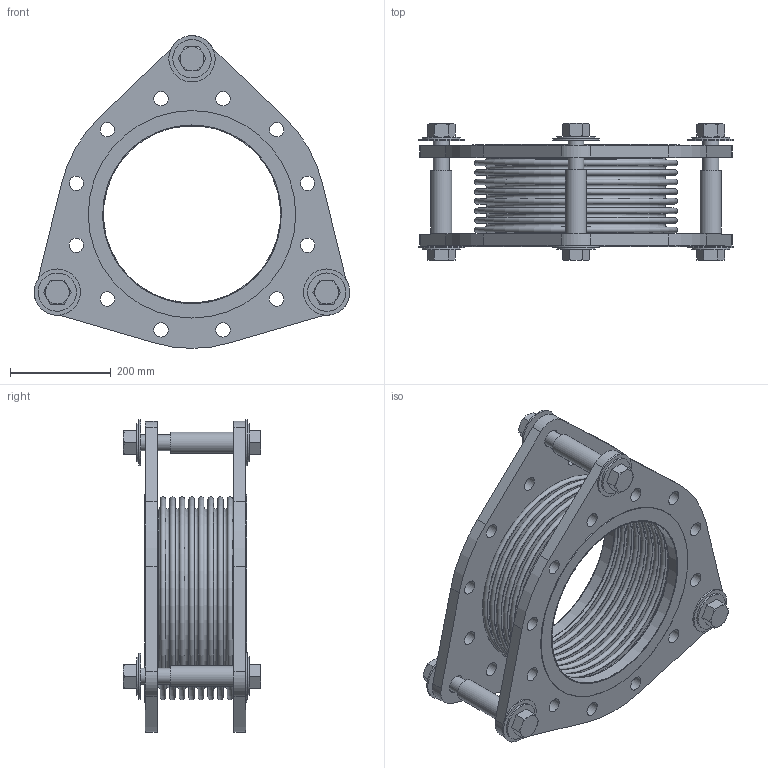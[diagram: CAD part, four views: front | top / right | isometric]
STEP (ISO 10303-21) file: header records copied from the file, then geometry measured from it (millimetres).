
FILE_DESCRIPTION(/* description */ (''),/* implementation_level */ '2;1');
FILE_NAME(/* name */ 'C:\001_Work\Designs\RFB\RFB-14x8.stp',/* time_stamp */ '2016-04-28T18:53:47-04:00',/* author */ ('rramoutar'),/* organization */ ('Mason Industries Inc.'),/* preprocessor_version */ 'ST-DEVELOPER v15.6',/* originating_system */ 'Autodesk Inventor 2015',/* authorisation */ '');
FILE_SCHEMA (('CONFIG_CONTROL_DESIGN'));
Length unit declared in the file: inch
Products named in the file (1): 14in_RFB_150FLANGE
Bounding box: 628.25 x 273.05 x 622.27 mm (x, y, z)
Volume: 9605565.9 mm3; surface area: 2440325.1 mm2
Topology: 24 solids, 24 shells, 313 faces, 659 edges, 431 vertices
Faces by surface type: plane 133, cylinder 86, cone 60, torus 34
Full cylindrical faces by diameter (mm): 27.813 x3, 28.575 x24, 31.75 x9, 34.925 x6, 35.052 x3, 36.512 x6, 42.164 x3, 76.2 x6, 92.075 x6, 352.425 x2, 355.6 x4, 412.75 x2
Entity records: 8003 total; most frequent: CARTESIAN_POINT 1428, DIRECTION 1322, ORIENTED_EDGE 1012, AXIS2_PLACEMENT_3D 610, EDGE_LOOP 566, EDGE_CURVE 506, VERTEX_POINT 392, STYLED_ITEM 337
